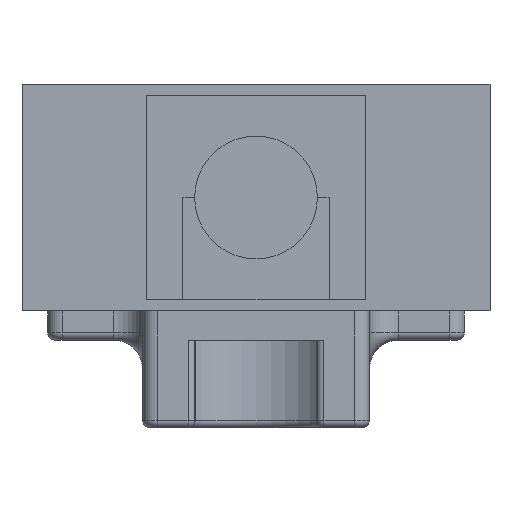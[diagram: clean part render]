
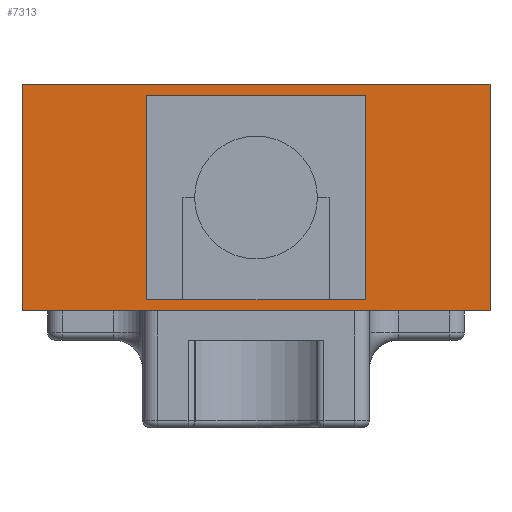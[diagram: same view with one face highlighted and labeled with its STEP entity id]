
A CAD part, front view. The second image highlights one B-rep face of the part: STEP entity #7313.
In plain terms, the highlighted planar face has unit normal (0, -1, 0).
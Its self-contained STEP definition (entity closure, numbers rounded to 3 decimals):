
#12 = DIRECTION ( 'NONE',  ( 0., 0., 1. ) ) ;
#43 = CARTESIAN_POINT ( 'NONE',  ( -16., -72.75, 7.75 ) ) ;
#257 = ORIENTED_EDGE ( 'NONE', *, *, #10618, .F. ) ;
#502 = EDGE_CURVE ( 'NONE', #774, #8370, #8655, .T. ) ;
#737 = VECTOR ( 'NONE', #967, 1000. ) ;
#774 = VERTEX_POINT ( 'NONE', #2062 ) ;
#788 = ORIENTED_EDGE ( 'NONE', *, *, #5535, .F. ) ;
#814 = CARTESIAN_POINT ( 'NONE',  ( -7., -72.75, -6.25 ) ) ;
#967 = DIRECTION ( 'NONE',  ( 0., 0., -1. ) ) ;
#1075 = ORIENTED_EDGE ( 'NONE', *, *, #12319, .T. ) ;
#1187 = DIRECTION ( 'NONE',  ( 0., 0., 1. ) ) ;
#1328 = ORIENTED_EDGE ( 'NONE', *, *, #10982, .T. ) ;
#2041 = CARTESIAN_POINT ( 'NONE',  ( 7., -72.75, 6.25 ) ) ;
#2062 = CARTESIAN_POINT ( 'NONE',  ( 7., -72.75, 6.25 ) ) ;
#2688 = DIRECTION ( 'NONE',  ( -1., 0., 0. ) ) ;
#2869 = CARTESIAN_POINT ( 'NONE',  ( -7., -72.75, -6.25 ) ) ;
#3185 = CARTESIAN_POINT ( 'NONE',  ( -7., -72.75, 6.25 ) ) ;
#3501 = VECTOR ( 'NONE', #4667, 1000. ) ;
#3712 = LINE ( 'NONE', #8352, #3882 ) ;
#3821 = CARTESIAN_POINT ( 'NONE',  ( 7., -72.75, 6.25 ) ) ;
#3882 = VECTOR ( 'NONE', #11371, 1000. ) ;
#3897 = VECTOR ( 'NONE', #6325, 1000. ) ;
#4003 = LINE ( 'NONE', #2869, #6541 ) ;
#4083 = PLANE ( 'NONE',  #11959 ) ;
#4092 = VECTOR ( 'NONE', #10869, 1000. ) ;
#4096 = LINE ( 'NONE', #4932, #4092 ) ;
#4159 = VERTEX_POINT ( 'NONE', #8647 ) ;
#4387 = CARTESIAN_POINT ( 'NONE',  ( -16., -72.75, -7.75 ) ) ;
#4510 = CARTESIAN_POINT ( 'NONE',  ( 7., -72.75, -6.25 ) ) ;
#4667 = DIRECTION ( 'NONE',  ( 0., 0., -1. ) ) ;
#4932 = CARTESIAN_POINT ( 'NONE',  ( -16., -72.75, 7.75 ) ) ;
#5535 = EDGE_CURVE ( 'NONE', #12288, #9838, #3712, .T. ) ;
#5757 = FACE_OUTER_BOUND ( 'NONE', #7793, .T. ) ;
#5911 = EDGE_CURVE ( 'NONE', #6148, #11900, #4003, .T. ) ;
#5991 = EDGE_CURVE ( 'NONE', #11900, #774, #10760, .T. ) ;
#6148 = VERTEX_POINT ( 'NONE', #6476 ) ;
#6325 = DIRECTION ( 'NONE',  ( 1., 0., 0. ) ) ;
#6476 = CARTESIAN_POINT ( 'NONE',  ( -7., -72.75, -6.25 ) ) ;
#6541 = VECTOR ( 'NONE', #6755, 1000. ) ;
#6755 = DIRECTION ( 'NONE',  ( 1., 0., 0. ) ) ;
#6964 = FACE_BOUND ( 'NONE', #12600, .T. ) ;
#7153 = VECTOR ( 'NONE', #12, 1000. ) ;
#7313 = ADVANCED_FACE ( 'NONE', ( #6964, #5757 ), #4083, .F. ) ;
#7714 = ORIENTED_EDGE ( 'NONE', *, *, #5911, .F. ) ;
#7764 = LINE ( 'NONE', #7824, #737 ) ;
#7793 = EDGE_LOOP ( 'NONE', ( #1075, #788, #8929, #1328 ) ) ;
#7824 = CARTESIAN_POINT ( 'NONE',  ( -16., -72.75, 7.75 ) ) ;
#8240 = LINE ( 'NONE', #12151, #3897 ) ;
#8352 = CARTESIAN_POINT ( 'NONE',  ( 16., -72.75, 7.75 ) ) ;
#8370 = VERTEX_POINT ( 'NONE', #3185 ) ;
#8507 = VERTEX_POINT ( 'NONE', #4387 ) ;
#8647 = CARTESIAN_POINT ( 'NONE',  ( -16., -72.75, 7.75 ) ) ;
#8655 = LINE ( 'NONE', #3821, #10881 ) ;
#8929 = ORIENTED_EDGE ( 'NONE', *, *, #12184, .F. ) ;
#9253 = CARTESIAN_POINT ( 'NONE',  ( 16., -72.75, 7.75 ) ) ;
#9838 = VERTEX_POINT ( 'NONE', #12344 ) ;
#10618 = EDGE_CURVE ( 'NONE', #8370, #6148, #11447, .T. ) ;
#10723 = DIRECTION ( 'NONE',  ( 0., 1., 0. ) ) ;
#10760 = LINE ( 'NONE', #2041, #7153 ) ;
#10869 = DIRECTION ( 'NONE',  ( 1., 0., 0. ) ) ;
#10881 = VECTOR ( 'NONE', #2688, 1000. ) ;
#10982 = EDGE_CURVE ( 'NONE', #4159, #8507, #7764, .T. ) ;
#11371 = DIRECTION ( 'NONE',  ( 0., 0., -1. ) ) ;
#11447 = LINE ( 'NONE', #814, #3501 ) ;
#11900 = VERTEX_POINT ( 'NONE', #4510 ) ;
#11959 = AXIS2_PLACEMENT_3D ( 'NONE', #43, #10723, #1187 ) ;
#12148 = ORIENTED_EDGE ( 'NONE', *, *, #502, .F. ) ;
#12151 = CARTESIAN_POINT ( 'NONE',  ( -16., -72.75, -7.75 ) ) ;
#12184 = EDGE_CURVE ( 'NONE', #4159, #12288, #4096, .T. ) ;
#12288 = VERTEX_POINT ( 'NONE', #9253 ) ;
#12319 = EDGE_CURVE ( 'NONE', #8507, #9838, #8240, .T. ) ;
#12344 = CARTESIAN_POINT ( 'NONE',  ( 16., -72.75, -7.75 ) ) ;
#12419 = ORIENTED_EDGE ( 'NONE', *, *, #5991, .F. ) ;
#12600 = EDGE_LOOP ( 'NONE', ( #257, #12148, #12419, #7714 ) ) ;
